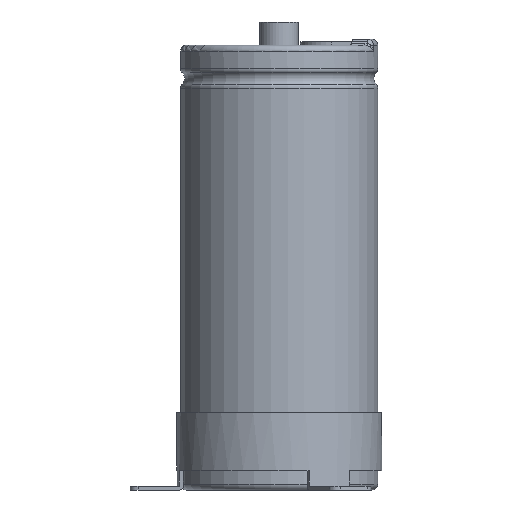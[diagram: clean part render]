
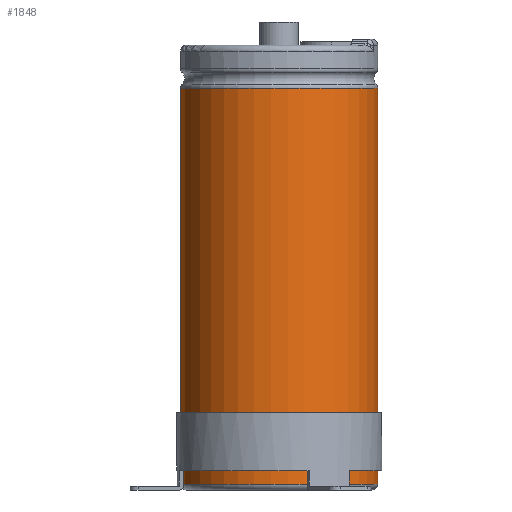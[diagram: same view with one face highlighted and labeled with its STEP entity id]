
A CAD part, front view. The second image highlights one B-rep face of the part: STEP entity #1848.
In plain terms, the highlighted cylindrical face has radius 25.5 mm (diameter 51 mm), a partial arc.
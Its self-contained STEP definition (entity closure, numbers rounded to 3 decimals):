
#370=LINE('',#9285,#608);
#371=LINE('',#9289,#609);
#608=VECTOR('',#6925,1.);
#609=VECTOR('',#6928,1.);
#1457=FACE_OUTER_BOUND('',#2362,.T.);
#1848=ADVANCED_FACE('',(#1457),#1998,.T.);
#1998=CYLINDRICAL_SURFACE('',#5769,25.5);
#2362=EDGE_LOOP('',(#3435,#3436,#3437,#3438));
#3435=ORIENTED_EDGE('',*,*,#4849,.T.);
#3436=ORIENTED_EDGE('',*,*,#4850,.T.);
#3437=ORIENTED_EDGE('',*,*,#4851,.F.);
#3438=ORIENTED_EDGE('',*,*,#4852,.F.);
#4222=VERTEX_POINT('',#9278);
#4224=VERTEX_POINT('',#9282);
#4225=VERTEX_POINT('',#9286);
#4226=VERTEX_POINT('',#9288);
#4849=EDGE_CURVE('',#4222,#4224,#5258,.T.);
#4850=EDGE_CURVE('',#4224,#4225,#370,.T.);
#4851=EDGE_CURVE('',#4226,#4225,#5259,.T.);
#4852=EDGE_CURVE('',#4222,#4226,#371,.T.);
#5258=CIRCLE('',#5766,25.5);
#5259=CIRCLE('',#5768,25.5);
#5766=AXIS2_PLACEMENT_3D('',#9283,#6921,#6922);
#5768=AXIS2_PLACEMENT_3D('',#9287,#6926,#6927);
#5769=AXIS2_PLACEMENT_3D('',#9290,#6929,#6930);
#6921=DIRECTION('',(0.,0.,-1.));
#6922=DIRECTION('',(0.,1.,0.));
#6925=DIRECTION('',(0.,0.,-1.));
#6926=DIRECTION('',(0.,0.,-1.));
#6927=DIRECTION('',(0.,1.,0.));
#6928=DIRECTION('',(0.,0.,-1.));
#6929=DIRECTION('',(0.,0.,-1.));
#6930=DIRECTION('',(0.,1.,0.));
#9278=CARTESIAN_POINT('',(3.989,25.186,103.9));
#9282=CARTESIAN_POINT('',(-3.989,25.186,103.9));
#9283=CARTESIAN_POINT('',(0.,0.,103.9));
#9285=CARTESIAN_POINT('',(-3.989,25.186,103.9));
#9286=CARTESIAN_POINT('',(-3.989,25.186,1.5));
#9287=CARTESIAN_POINT('',(0.,0.,1.5));
#9288=CARTESIAN_POINT('',(3.989,25.186,1.5));
#9289=CARTESIAN_POINT('',(3.989,25.186,103.9));
#9290=CARTESIAN_POINT('',(0.,0.,0.));
